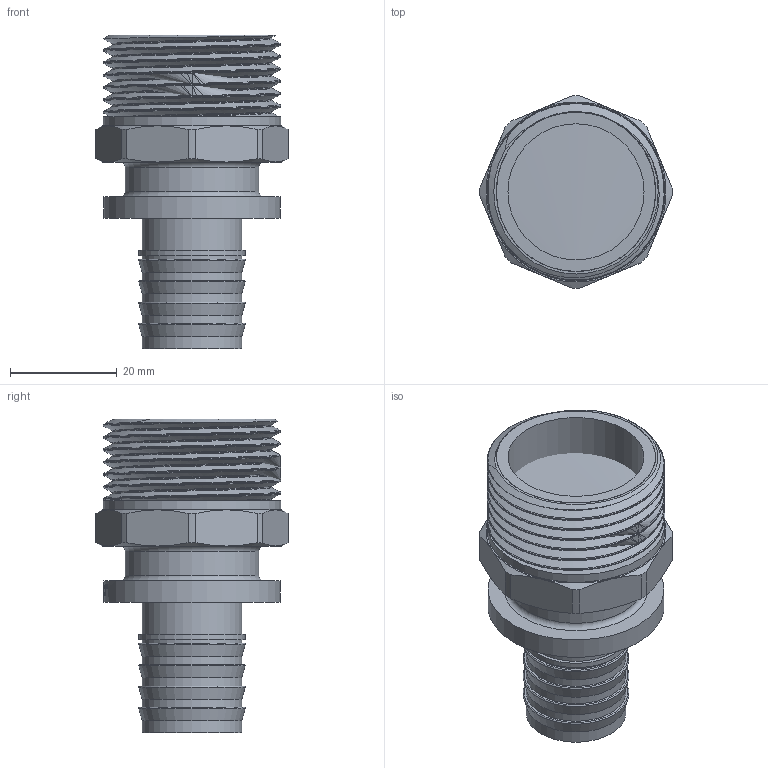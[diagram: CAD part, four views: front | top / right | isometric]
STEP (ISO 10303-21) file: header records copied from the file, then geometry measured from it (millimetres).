
FILE_DESCRIPTION(/* description */ (''),/* implementation_level */ '2;1');
FILE_NAME(/* name */ 'C:\Users\Doom\Desktop\Фадотех\Натяжка\SFM17_NEW 25x1 29.05.2020\SFM17_NEW 25x1 29.05.2020.stp',/* time_stamp */ '2022-07-25T14:17:28+03:00',/* author */ ('Doom'),/* organization */ (''),/* preprocessor_version */ 'ST-DEVELOPER v18',/* originating_system */ 'Autodesk Inventor 2020',/* authorisation */ '');
FILE_SCHEMA (('AUTOMOTIVE_DESIGN { 1 0 10303 214 3 1 1 }'));
Length unit declared in the file: millimetre
Products named in the file (1): SFM17_NEW 25x1 29.05.2020
Bounding box: 36 x 36 x 58.8 mm (x, y, z)
Volume: 18418.5 mm3; surface area: 15363.8 mm2
Topology: 2 solids, 2 shells, 185 faces, 492 edges, 331 vertices
Faces by surface type: plane 64, bspline 52, cylinder 40, cone 23, torus 6
Full cylindrical faces by diameter (mm): 14.7 x1, 18.626 x2, 18.668 x3, 18.687 x1, 19.274 x1, 19.9 x1, 25 x1, 25.5 x1, 29.826 x2, 33 x1, 33.25 x8
Entity records: 10596 total; most frequent: CARTESIAN_POINT 6243, ORIENTED_EDGE 984, DIRECTION 773, EDGE_CURVE 492, VERTEX_POINT 331, AXIS2_PLACEMENT_3D 304, EDGE_LOOP 209, FACE_OUTER_BOUND 185
